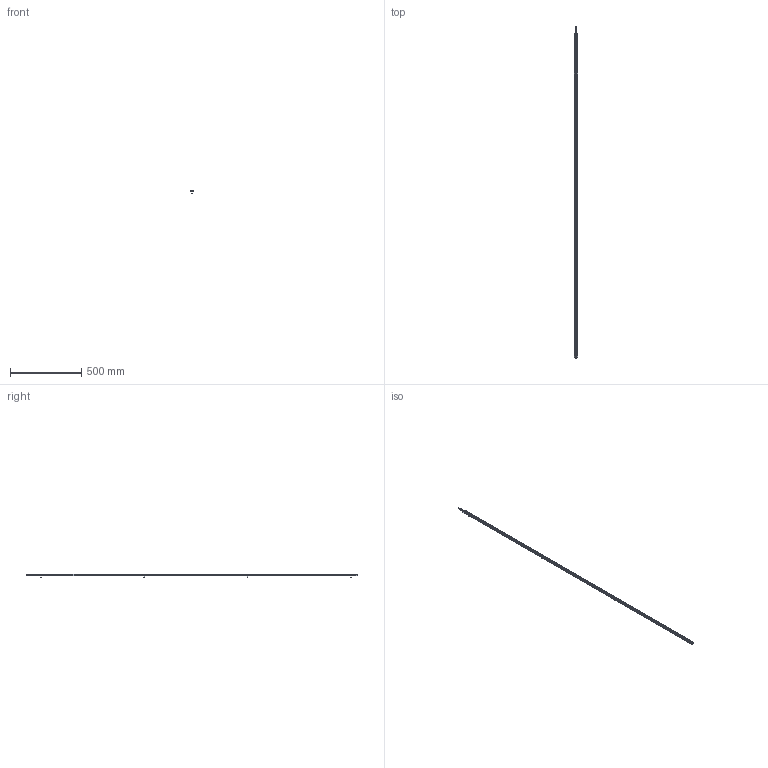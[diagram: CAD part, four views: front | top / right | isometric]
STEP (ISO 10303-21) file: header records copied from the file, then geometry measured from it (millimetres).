
FILE_DESCRIPTION (( 'STEP AP214' ), '1' );
FILE_NAME ('ILGA-B-K2-2280mm.STEP', '2026-04-24T23:05:29', ( '' ), ( '' ), 'SwSTEP 2.0', 'SolidWorks 2025', '' );
FILE_SCHEMA (( 'AUTOMOTIVE_DESIGN' ));
Length unit declared in the file: millimetre
Products named in the file (1): ILGA-B-K2-2280mm
Bounding box: 22.4 x 2334.5 x 25.7 mm (x, y, z)
Surface area: 310886.7 mm2 (no closed solid volume)
Topology: 0 solids, 17 shells, 975 faces, 2532 edges, 1571 vertices
Faces by surface type: cylinder 403, plane 364, cone 86, bspline 56, torus 50, sphere 16
Entity records: 42888 total; most frequent: CARTESIAN_POINT 8692, ORIENTED_EDGE 4945, DIRECTION 4896, EDGE_CURVE 2480, AXIS2_PLACEMENT_3D 1879, VERTEX_POINT 1571, LINE 1138, VECTOR 1138
